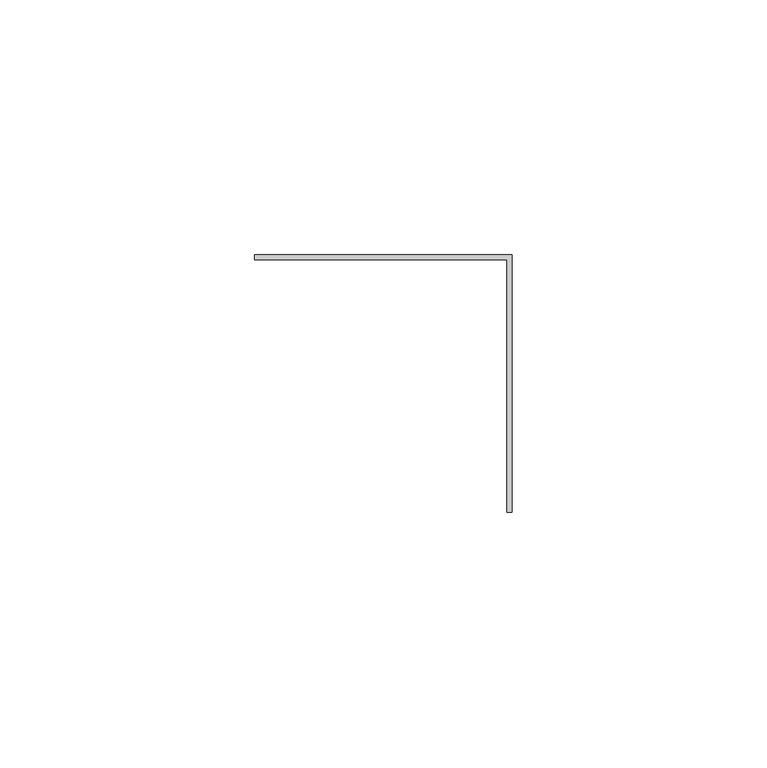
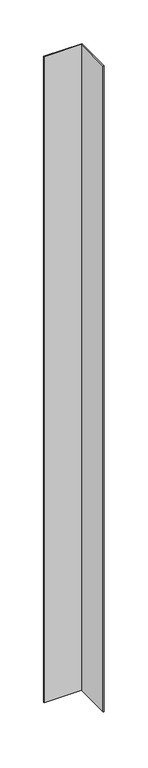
"""IFC4 building model written with IfcOpenShell, lengths in millimetres: member geometry, Meneau d'angle en L : ATELIERS 3S_Angle sortant."""

from ifc_helpers import new_model, si_unit, frame, origin, place, context, project, spatial, polyline, outline, extrude, source, transform, mapped, element, save


def member_e2f5a6cd(model_context):
    return source(origin(), model_context, "Body", "SweptSolid", [
        extrude(outline(polyline([(37.5, -12.0), (37.5, 37.5), (-12.0, 37.5), (-12.0, 38.5), (38.5, 38.5), (38.5, -12.0), (37.5, -12.0)])), frame((0.0, 0.0, -900.0), z_axis=(0.0, 0.0, 1.0), x_axis=(1.0, 0.0, 0.0)), (0.0, 0.0, 1.0), 900.0),
    ])


if __name__ == "__main__":
    model = new_model("IFC4")
    model_context = context("Model", 3, world=origin())
    ifc_project = project(units=[si_unit("LENGTHUNIT", "METRE", prefix="MILLI")], contexts=[model_context])
    site = spatial("IfcSite", under=ifc_project)
    building = spatial("IfcBuilding", under=site)
    placement = place(None, origin())
    member_shape = member_e2f5a6cd(model_context)
    element("IfcMember", 1, ObjectType="Meneau d'angle en L : ATELIERS 3S_Angle sortant", at=placement, inside=building, context=model_context, shape_type="MappedRepresentation", body=[
        mapped(member_shape, transform((0.0, 0.0, 0.0), x_axis=(1.0, 0.0, 0.0), y_axis=(0.0, 1.0, 0.0), z_axis=(0.0, 0.0, 1.0))),
    ])
    save(model, "model.ifc")
